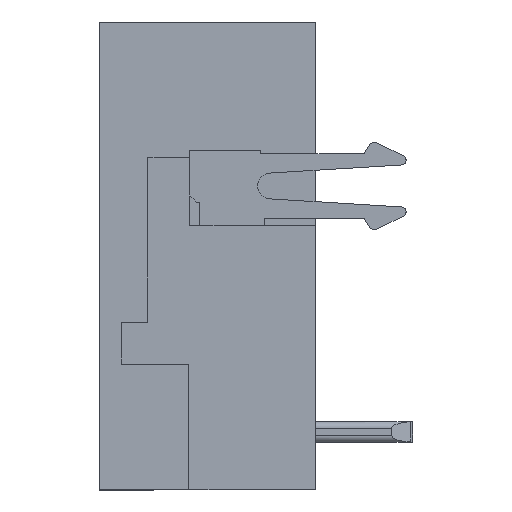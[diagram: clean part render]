
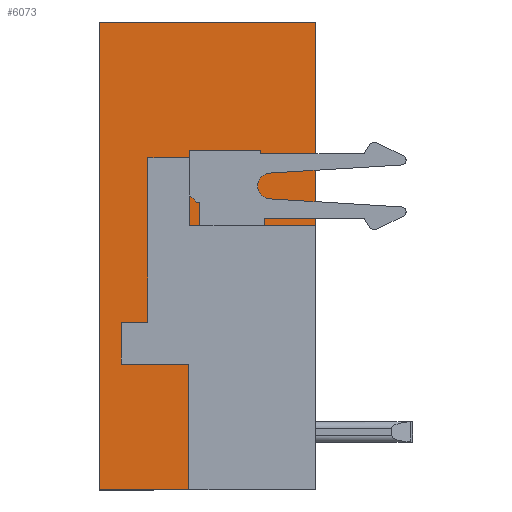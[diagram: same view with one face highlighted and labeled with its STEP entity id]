
A CAD part, left-side view. The second image highlights one B-rep face of the part: STEP entity #6073.
In plain terms, the highlighted planar face has unit normal (-1, 0, 0).
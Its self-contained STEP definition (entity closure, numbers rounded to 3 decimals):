
#228 = LINE ( 'NONE', #10938, #2835 ) ;
#323 = LINE ( 'NONE', #2957, #17209 ) ;
#1083 = ORIENTED_EDGE ( 'NONE', *, *, #10797, .T. ) ;
#1119 = DIRECTION ( 'NONE',  ( 0., -1., 0. ) ) ;
#1326 = EDGE_CURVE ( 'NONE', #6964, #6667, #2843, .T. ) ;
#1355 = EDGE_CURVE ( 'NONE', #6667, #13396, #10318, .T. ) ;
#1460 = DIRECTION ( 'NONE',  ( 0., 0., 1. ) ) ;
#1579 = ORIENTED_EDGE ( 'NONE', *, *, #1355, .T. ) ;
#1606 = AXIS2_PLACEMENT_3D ( 'NONE', #4196, #8671, #17703 ) ;
#1792 = CARTESIAN_POINT ( 'NONE',  ( -19.405, 3.93, -3.8 ) ) ;
#1932 = CARTESIAN_POINT ( 'NONE',  ( -19.405, 0., 4.4 ) ) ;
#2023 = EDGE_CURVE ( 'NONE', #10129, #13555, #18981, .T. ) ;
#2086 = LINE ( 'NONE', #13224, #3726 ) ;
#2387 = DIRECTION ( 'NONE',  ( 0., 1., 0. ) ) ;
#2417 = VERTEX_POINT ( 'NONE', #18216 ) ;
#2451 = ORIENTED_EDGE ( 'NONE', *, *, #4804, .T. ) ;
#2817 = CARTESIAN_POINT ( 'NONE',  ( -19.405, 6.7, -3.8 ) ) ;
#2826 = ORIENTED_EDGE ( 'NONE', *, *, #2023, .T. ) ;
#2835 = VECTOR ( 'NONE', #15259, 1000. ) ;
#2843 = LINE ( 'NONE', #16348, #3794 ) ;
#2957 = CARTESIAN_POINT ( 'NONE',  ( -19.405, 6.7, -3.8 ) ) ;
#3057 = CARTESIAN_POINT ( 'NONE',  ( -19.405, 5.2, 1.4 ) ) ;
#3726 = VECTOR ( 'NONE', #4179, 1000. ) ;
#3794 = VECTOR ( 'NONE', #9095, 1000. ) ;
#3869 = LINE ( 'NONE', #8920, #8289 ) ;
#3969 = CARTESIAN_POINT ( 'NONE',  ( -19.405, 5.2, 6.5 ) ) ;
#4072 = CARTESIAN_POINT ( 'NONE',  ( -19.405, 5.2, 6.5 ) ) ;
#4179 = DIRECTION ( 'NONE',  ( 0., 0., -1. ) ) ;
#4196 = CARTESIAN_POINT ( 'NONE',  ( -19.405, 6.7, 0. ) ) ;
#4338 = VERTEX_POINT ( 'NONE', #18535 ) ;
#4457 = CARTESIAN_POINT ( 'NONE',  ( -19.405, 0., 4.4 ) ) ;
#4569 = ORIENTED_EDGE ( 'NONE', *, *, #1326, .T. ) ;
#4737 = EDGE_CURVE ( 'NONE', #14359, #6964, #4876, .T. ) ;
#4791 = LINE ( 'NONE', #10780, #8492 ) ;
#4804 = EDGE_CURVE ( 'NONE', #4338, #16353, #9725, .T. ) ;
#4857 = VECTOR ( 'NONE', #18157, 1000. ) ;
#4876 = LINE ( 'NONE', #4457, #15134 ) ;
#5027 = EDGE_CURVE ( 'NONE', #16353, #10129, #9035, .T. ) ;
#5938 = CARTESIAN_POINT ( 'NONE',  ( -19.405, 3.93, 0.1 ) ) ;
#6073 = ADVANCED_FACE ( 'NONE', ( #13837 ), #13110, .T. ) ;
#6227 = ORIENTED_EDGE ( 'NONE', *, *, #14885, .T. ) ;
#6328 = CARTESIAN_POINT ( 'NONE',  ( -19.405, 3.9, 6.5 ) ) ;
#6667 = VERTEX_POINT ( 'NONE', #18437 ) ;
#6964 = VERTEX_POINT ( 'NONE', #16176 ) ;
#7380 = EDGE_CURVE ( 'NONE', #8348, #19034, #15916, .T. ) ;
#8289 = VECTOR ( 'NONE', #11792, 1000. ) ;
#8348 = VERTEX_POINT ( 'NONE', #3969 ) ;
#8492 = VECTOR ( 'NONE', #9464, 1000. ) ;
#8671 = DIRECTION ( 'NONE',  ( -1., 0., 0. ) ) ;
#8845 = CARTESIAN_POINT ( 'NONE',  ( -19.405, 6.03, 0.1 ) ) ;
#8920 = CARTESIAN_POINT ( 'NONE',  ( -19.405, 3.9, 4.4 ) ) ;
#8959 = DIRECTION ( 'NONE',  ( 0., 0., -1. ) ) ;
#8969 = DIRECTION ( 'NONE',  ( 0., -1., 0. ) ) ;
#9035 = LINE ( 'NONE', #14397, #16272 ) ;
#9095 = DIRECTION ( 'NONE',  ( 0., 1., 0. ) ) ;
#9464 = DIRECTION ( 'NONE',  ( 0., -1., 0. ) ) ;
#9587 = CARTESIAN_POINT ( 'NONE',  ( -19.405, 6.03, 1.4 ) ) ;
#9725 = LINE ( 'NONE', #1792, #4857 ) ;
#10129 = VERTEX_POINT ( 'NONE', #11444 ) ;
#10318 = LINE ( 'NONE', #19314, #17821 ) ;
#10780 = CARTESIAN_POINT ( 'NONE',  ( -19.405, 6.03, 1.4 ) ) ;
#10797 = EDGE_CURVE ( 'NONE', #2417, #14359, #3869, .T. ) ;
#10938 = CARTESIAN_POINT ( 'NONE',  ( -19.405, 5.2, 1.4 ) ) ;
#11174 = ORIENTED_EDGE ( 'NONE', *, *, #16391, .T. ) ;
#11444 = CARTESIAN_POINT ( 'NONE',  ( -19.405, 6.03, 0.1 ) ) ;
#11792 = DIRECTION ( 'NONE',  ( 0., -1., 0. ) ) ;
#12257 = ORIENTED_EDGE ( 'NONE', *, *, #4737, .T. ) ;
#12288 = EDGE_LOOP ( 'NONE', ( #2451, #16033, #2826, #13314, #6227, #17406, #11174, #1083, #12257, #4569, #1579, #18277 ) ) ;
#12651 = VECTOR ( 'NONE', #1119, 1000. ) ;
#12710 = EDGE_CURVE ( 'NONE', #13396, #4338, #323, .T. ) ;
#13110 = PLANE ( 'NONE',  #1606 ) ;
#13224 = CARTESIAN_POINT ( 'NONE',  ( -19.405, 3.9, 6.5 ) ) ;
#13314 = ORIENTED_EDGE ( 'NONE', *, *, #19448, .T. ) ;
#13396 = VERTEX_POINT ( 'NONE', #2817 ) ;
#13555 = VERTEX_POINT ( 'NONE', #9587 ) ;
#13837 = FACE_OUTER_BOUND ( 'NONE', #12288, .T. ) ;
#14359 = VERTEX_POINT ( 'NONE', #1932 ) ;
#14397 = CARTESIAN_POINT ( 'NONE',  ( -19.405, 3.93, 0.1 ) ) ;
#14885 = EDGE_CURVE ( 'NONE', #17324, #8348, #228, .T. ) ;
#15134 = VECTOR ( 'NONE', #1460, 1000. ) ;
#15259 = DIRECTION ( 'NONE',  ( 0., 0., 1. ) ) ;
#15916 = LINE ( 'NONE', #4072, #12651 ) ;
#15921 = VECTOR ( 'NONE', #16365, 1000. ) ;
#16033 = ORIENTED_EDGE ( 'NONE', *, *, #5027, .T. ) ;
#16176 = CARTESIAN_POINT ( 'NONE',  ( -19.405, 0., 10.7 ) ) ;
#16272 = VECTOR ( 'NONE', #2387, 1000. ) ;
#16348 = CARTESIAN_POINT ( 'NONE',  ( -19.405, 0., 10.7 ) ) ;
#16353 = VERTEX_POINT ( 'NONE', #5938 ) ;
#16365 = DIRECTION ( 'NONE',  ( 0., 0., 1. ) ) ;
#16391 = EDGE_CURVE ( 'NONE', #19034, #2417, #2086, .T. ) ;
#17209 = VECTOR ( 'NONE', #8969, 1000. ) ;
#17324 = VERTEX_POINT ( 'NONE', #3057 ) ;
#17406 = ORIENTED_EDGE ( 'NONE', *, *, #7380, .T. ) ;
#17703 = DIRECTION ( 'NONE',  ( 0., 0., 1. ) ) ;
#17821 = VECTOR ( 'NONE', #8959, 1000. ) ;
#18157 = DIRECTION ( 'NONE',  ( 0., 0., 1. ) ) ;
#18216 = CARTESIAN_POINT ( 'NONE',  ( -19.405, 3.9, 4.4 ) ) ;
#18277 = ORIENTED_EDGE ( 'NONE', *, *, #12710, .T. ) ;
#18437 = CARTESIAN_POINT ( 'NONE',  ( -19.405, 6.7, 10.7 ) ) ;
#18535 = CARTESIAN_POINT ( 'NONE',  ( -19.405, 3.93, -3.8 ) ) ;
#18981 = LINE ( 'NONE', #8845, #15921 ) ;
#19034 = VERTEX_POINT ( 'NONE', #6328 ) ;
#19314 = CARTESIAN_POINT ( 'NONE',  ( -19.405, 6.7, 10.7 ) ) ;
#19448 = EDGE_CURVE ( 'NONE', #13555, #17324, #4791, .T. ) ;
